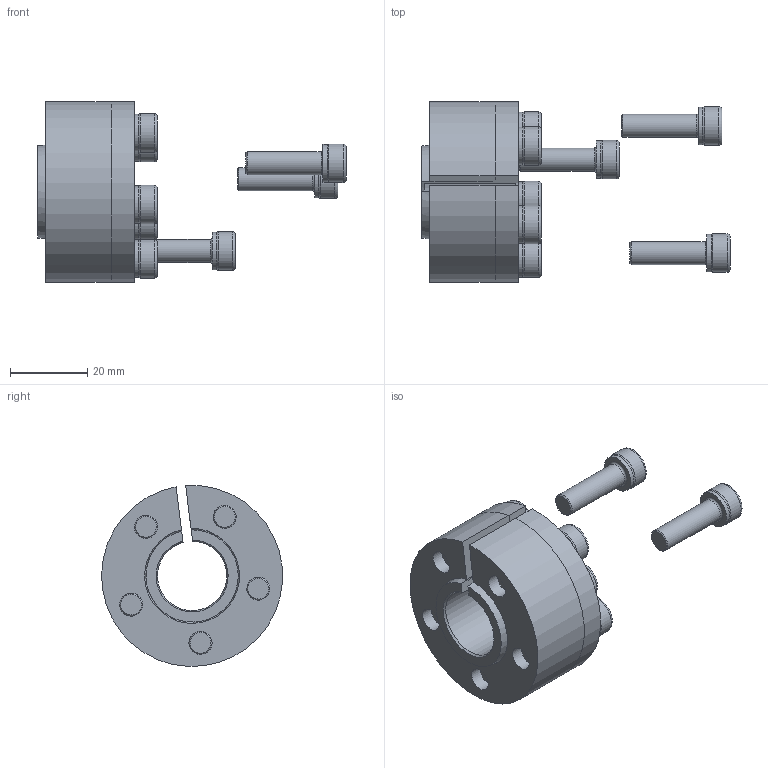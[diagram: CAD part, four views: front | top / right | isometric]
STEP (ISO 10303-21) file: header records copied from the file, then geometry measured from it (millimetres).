
FILE_DESCRIPTION((''),'2;1');
FILE_NAME('M:\Disegni 3D\CALETTATORI\RCK 13\18x47 - 06130018\Assieme.stp','2015-12-16T12:00:49',('fabietto'),(''),'Autodesk Inventor 2013','Autodesk Inventor 2013','');
FILE_SCHEMA(('AUTOMOTIVE_DESIGN { 1 0 10303 214 1 1 1 1 }'));
Length unit declared in the file: millimetre
Products named in the file (5): Assieme; Anello esterno; Parte1; Vite di bloccaggio M6x20 - Brunita; Vite di bloccaggio M6x20 - Zincata
Assembly tree (10 placements, depth 2):
  Assieme
    Anello esterno
    Parte1
    Vite di bloccaggio M6x20 - Brunita  x5
    Vite di bloccaggio M6x20 - Zincata  x3
Bounding box: 79.98 x 46.93 x 46.91 mm (x, y, z)
Volume: 37760.4 mm3; surface area: 21000 mm2
Topology: 10 solids, 10 shells, 265 faces, 567 edges, 338 vertices
Faces by surface type: plane 137, cylinder 90, torus 24, cone 14
Full cylindrical faces by diameter (mm): 6 x16, 7 x5, 9.75 x8, 10 x8
Entity records: 2613 total; most frequent: DIRECTION 448, CARTESIAN_POINT 430, ORIENTED_EDGE 352, AXIS2_PLACEMENT_3D 178, EDGE_CURVE 176, EDGE_LOOP 148, VERTEX_POINT 124, VECTOR 92
